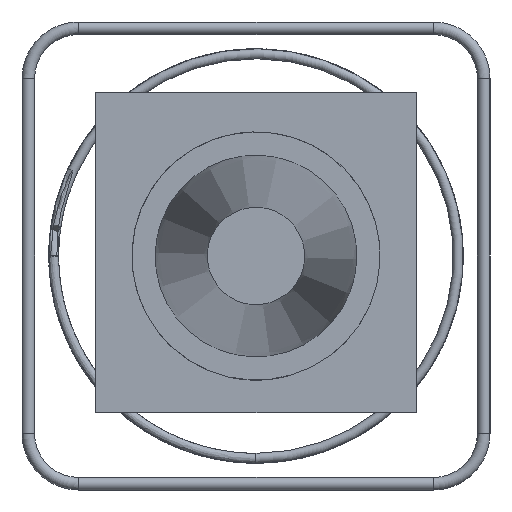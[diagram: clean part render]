
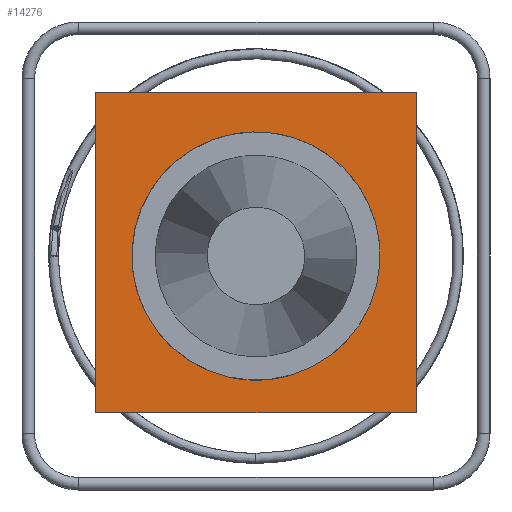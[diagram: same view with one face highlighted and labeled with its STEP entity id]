
A CAD part, left-side view. The second image highlights one B-rep face of the part: STEP entity #14276.
In plain terms, the highlighted planar face has unit normal (-1, 0, 0).
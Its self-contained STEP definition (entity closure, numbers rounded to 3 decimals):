
#1445=PLANE('',#15014);
#2352=LINE('',#39597,#3269);
#2356=LINE('',#39604,#3273);
#2359=LINE('',#39609,#3276);
#2362=LINE('',#39613,#3279);
#3269=VECTOR('',#17363,510.);
#3273=VECTOR('',#17369,510.);
#3276=VECTOR('',#17374,510.);
#3279=VECTOR('',#17379,510.);
#3520=FACE_BOUND('',#5276,.T.);
#4339=FACE_OUTER_BOUND('',#5275,.T.);
#5275=EDGE_LOOP('',(#13144,#13145,#13146,#13147));
#5276=EDGE_LOOP('',(#13148));
#5660=CIRCLE('',#14941,197.5);
#7045=VERTEX_POINT('',#33847);
#7076=VERTEX_POINT('',#39595);
#7077=VERTEX_POINT('',#39596);
#7079=VERTEX_POINT('',#39603);
#7080=VERTEX_POINT('',#39608);
#9078=EDGE_CURVE('',#7045,#7045,#5660,.T.);
#9111=EDGE_CURVE('',#7076,#7077,#2352,.T.);
#9115=EDGE_CURVE('',#7077,#7079,#2356,.T.);
#9118=EDGE_CURVE('',#7079,#7080,#2359,.T.);
#9121=EDGE_CURVE('',#7080,#7076,#2362,.T.);
#13144=ORIENTED_EDGE('',*,*,#9121,.T.);
#13145=ORIENTED_EDGE('',*,*,#9111,.T.);
#13146=ORIENTED_EDGE('',*,*,#9115,.T.);
#13147=ORIENTED_EDGE('',*,*,#9118,.T.);
#13148=ORIENTED_EDGE('',*,*,#9078,.T.);
#14276=ADVANCED_FACE('',(#4339,#3520),#1445,.T.);
#14941=AXIS2_PLACEMENT_3D('',#33848,#17217,#17218);
#15014=AXIS2_PLACEMENT_3D('',#39615,#17381,#17382);
#17217=DIRECTION('center_axis',(1.,0.,0.));
#17218=DIRECTION('ref_axis',(0.,-0.998,-0.059));
#17363=DIRECTION('',(0.,0.,-1.));
#17369=DIRECTION('',(0.,-1.,0.));
#17374=DIRECTION('',(0.,0.,1.));
#17379=DIRECTION('',(0.,1.,0.));
#17381=DIRECTION('center_axis',(-1.,0.,0.));
#17382=DIRECTION('ref_axis',(0.,0.,-1.));
#33847=CARTESIAN_POINT('',(-112.151,-197.154,-11.679));
#33848=CARTESIAN_POINT('Origin',(-112.151,0.,
0.));
#39595=CARTESIAN_POINT('',(-112.151,255.,260.253));
#39596=CARTESIAN_POINT('',(-112.151,255.,-249.747));
#39597=CARTESIAN_POINT('',(-112.151,255.,260.253));
#39603=CARTESIAN_POINT('',(-112.151,-255.,-249.747));
#39604=CARTESIAN_POINT('',(-112.151,255.,-249.747));
#39608=CARTESIAN_POINT('',(-112.151,-255.,260.253));
#39609=CARTESIAN_POINT('',(-112.151,-255.,-249.747));
#39613=CARTESIAN_POINT('',(-112.151,-255.,260.253));
#39615=CARTESIAN_POINT('Origin',(-112.151,0.,5.253));
